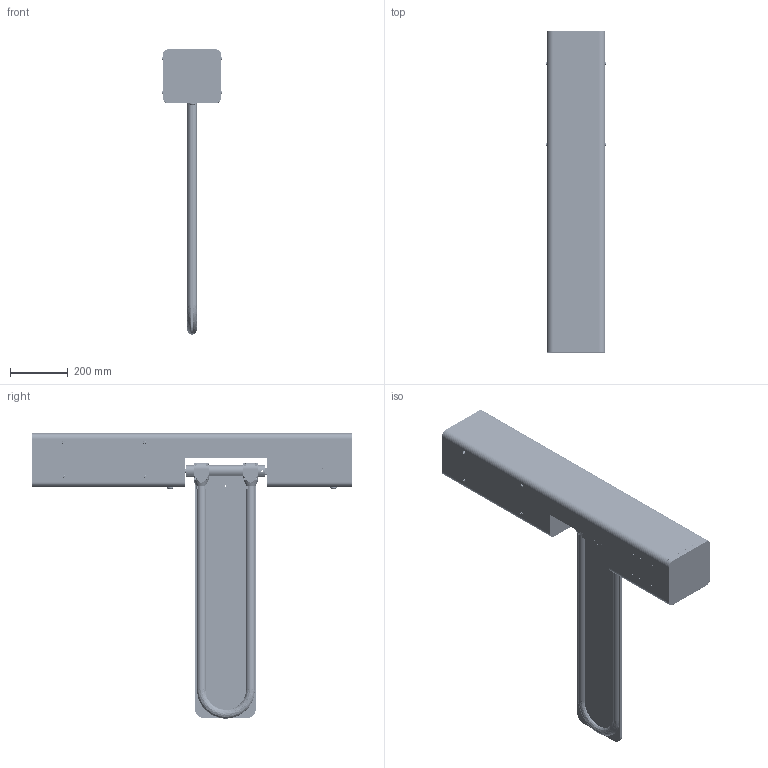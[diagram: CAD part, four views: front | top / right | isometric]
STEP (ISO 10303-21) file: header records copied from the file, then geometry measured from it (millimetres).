
FILE_DESCRIPTION((''),'2;1');
FILE_NAME('ASM0001_ASM_ASM','2024-01-25T',('Administrator'),(''),'PRO/ENGINEER BY PARAMETRIC TECHNOLOGY CORPORATION, 2012090','PRO/ENGINEER BY PARAMETRIC TECHNOLOGY CORPORATION, 2012090','');
FILE_SCHEMA(('AUTOMOTIVE_DESIGN_CC2 { 1 2 10303 214 -1 1 5 2 }'));
Products named in the file (87): PRT0058; PRT0059; PRT0060; PRT0061; PRT0062; PRT0063; PRT0064; PRT0065; PRT0066; PRT0067; PRT0068; PRT0069; PRT0070; PRT0071; PRT0072; ASM0008_ASM_ASM; ASM0007_ASM_ASM; PRT0073; PRT0074; PRT0075; ASM0010_ASM_ASM; PRT0076; PRT0077; PRT0078; PRT0079; ASM0011_ASM_ASM; PRT0080; PRT0081; PRT0082; ASM0013_ASM_ASM; PRT0083; PRT0084; PRT0085; ASM0014_ASM_ASM; ASM0012_ASM_ASM; ASM0009_ASM_ASM; PRT0086; ASM0015_ASM_ASM; PRT0087; PRT0088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
Assembly tree (126 placements, depth 11):
  ASM0001_ASM_ASM
    ASM0030_ASM
      ASM0002_ASM_ASM
        ASM0003_ASM_ASM
          ASM0004_ASM_ASM
            ASM0005_ASM_ASM
              ASM0006_ASM_ASM
                PRT0058
                PRT0059
                PRT0060
                PRT0061  x2
                PRT0062
                PRT0063
                PRT0064
                PRT0065
                PRT0066
                PRT0067
                PRT0068
                PRT0069  x8
                ASM0007_ASM_ASM
                  PRT0070
                  ASM0008_ASM_ASM
                ASM0009_ASM_ASM
                  PRT0073
                  ASM0010_ASM_ASM
                  PRT0076
                  ASM0011_ASM_ASM
                    PRT0078  x2
                  ASM0012_ASM_ASM
                ASM0015_ASM_ASM
                  PRT0086
                ASM0016_ASM_ASM
                  PRT0087
                  PRT0088
                  ASM0017_ASM_ASM
                  ASM0019_ASM_ASM
                  ASM0021_ASM_ASM
                  PRT0098
                  PRT0099
              ASM0022_ASM_ASM  x2
                PRT0043_1
                ASM0023_ASM_ASM
                  PRT0100
            ASM0024_ASM_ASM
              ASM0025_ASM_ASM
                ASM0026_ASM_ASM
                  ASM0027_ASM_ASM
                  PRT0103
                  PRT0104
                  PRT0105
                  PRT0106
                PRT0107
                PRT0108  x8
                PRT0109  x4
                PRT0110  x6
            ASM0028_ASM_ASM
              PRT0111
              ASM0029_ASM_ASM
                PRT0112
                PRT0113
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Bounding box: 210 x 1109 x 986.31 mm (x, y, z)
Volume: 6084636 mm3; surface area: 4331920.5 mm2
Topology: 98 solids, 98 shells, 6182 faces, 16268 edges, 10335 vertices
Faces by surface type: cylinder 2798, plane 2765, bspline 246, sphere 128, torus 110, cone 107, extrusion 24, revolution 4
Entity records: 225414 total; most frequent: CARTESIAN_POINT 88967, ORIENTED_EDGE 21678, DIRECTION 20904, EDGE_CURVE 10839, PRESENTATION_STYLE_ASSIGNMENT 10595, STYLED_ITEM 10560, CURVE_STYLE 10507, AXIS2_PLACEMENT_3D 7258
